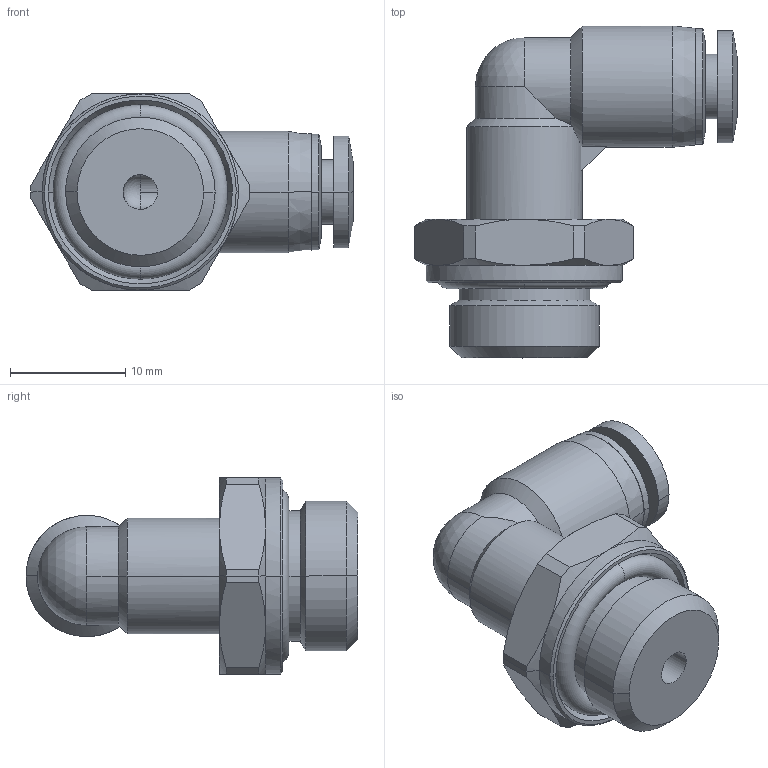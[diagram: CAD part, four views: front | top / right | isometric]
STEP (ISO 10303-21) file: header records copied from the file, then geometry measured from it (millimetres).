
FILE_DESCRIPTION (( 'STEP AP203' ), '1' );
FILE_NAME ('FL04-02.STEP', '2020-05-06T15:02:28', ( '' ), ( '' ), 'SwSTEP 2.0', 'SolidWorks 2019', '' );
FILE_SCHEMA (( 'CONFIG_CONTROL_DESIGN' ));
Length unit declared in the file: millimetre
Products named in the file (1): FL04-02
Bounding box: 27.95 x 28.75 x 17 mm (x, y, z)
Surface area: 2817.8 mm2 (no closed solid volume)
Topology: 0 solids, 4 shells, 93 faces, 223 edges, 138 vertices
Faces by surface type: cylinder 34, cone 32, plane 19, torus 4, bspline 2, sphere 2
Entity records: 4451 total; most frequent: CARTESIAN_POINT 2602, ORIENTED_EDGE 424, DIRECTION 236, EDGE_CURVE 220, B_SPLINE_CURVE_WITH_KNOTS 170, VERTEX_POINT 137, EDGE_LOOP 103, AXIS2_PLACEMENT_3D 96
